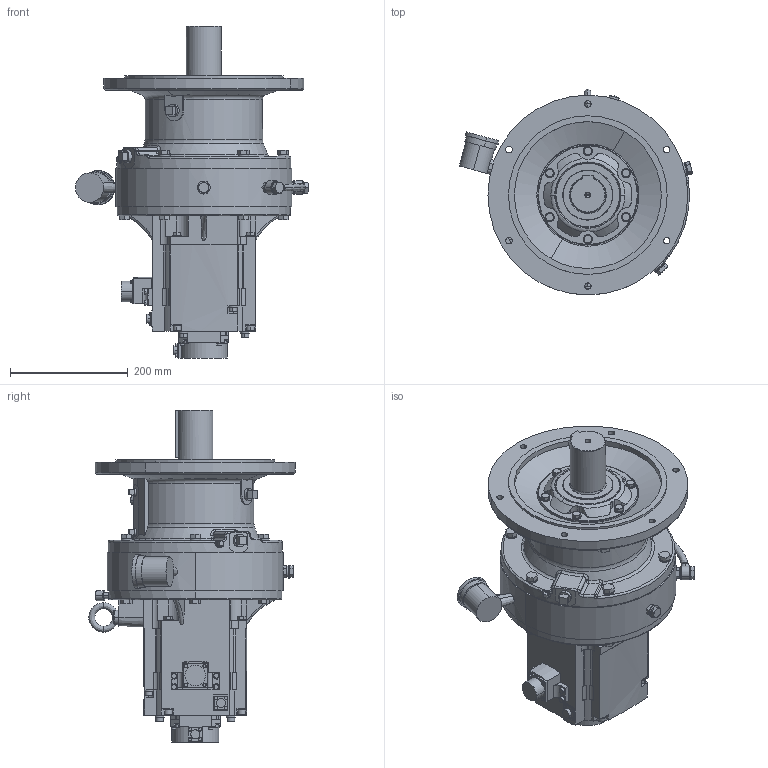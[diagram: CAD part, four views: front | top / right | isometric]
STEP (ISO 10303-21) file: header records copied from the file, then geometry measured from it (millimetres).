
FILE_DESCRIPTION((''),'2;1');
FILE_NAME('PRT0001','2018-10-09T',('PR03020'),(''),'CREO PARAMETRIC BY PTC INC, 2016380','CREO PARAMETRIC BY PTC INC, 2016380','');
FILE_SCHEMA(('CONFIG_CONTROL_DESIGN'));
Length unit declared in the file: millimetre
Products named in the file (1): PRT0001
Bounding box: 396.82 x 350.98 x 565 mm (x, y, z)
Volume: 18342895.7 mm3; surface area: 709080.8 mm2
Topology: 1 solids, 1 shells, 1204 faces, 3002 edges, 1927 vertices
Faces by surface type: plane 676, cylinder 370, cone 102, torus 27, bspline 25, sphere 4
Entity records: 46457 total; most frequent: CARTESIAN_POINT 17576, DIRECTION 6045, ORIENTED_EDGE 5980, EDGE_CURVE 2990, AXIS2_PLACEMENT_3D 2256, VERTEX_POINT 1925, VECTOR 1533, LINE 1533
